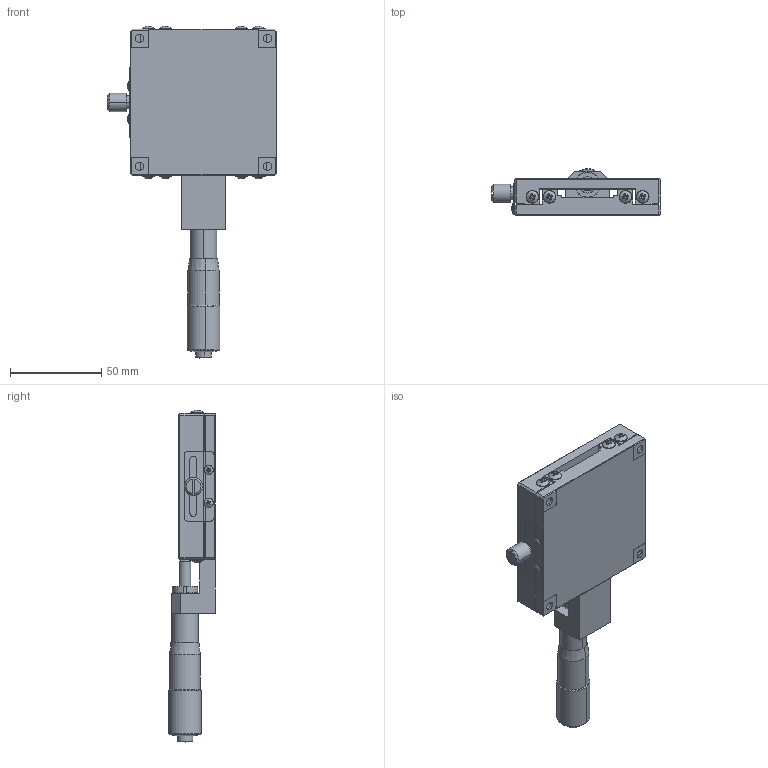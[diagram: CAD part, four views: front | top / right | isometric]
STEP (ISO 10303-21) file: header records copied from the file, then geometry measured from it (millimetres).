
FILE_DESCRIPTION (( 'STEP AP203' ), '1' );
FILE_NAME ('LX80-C.STEP', '2013-12-21T05:02:20', ( 'pengyu' ), ( '' ), 'SwSTEP 2.0', 'SolidWorks 2011', '' );
FILE_SCHEMA (( 'CONFIG_CONTROL_DESIGN' ));
Length unit declared in the file: millimetre
Products named in the file (4): LX80-C; MT25-4-1; L80C-2; L80C-1
Assembly tree (3 placements, depth 2):
  LX80-C
    MT25-4-1
    L80C-2
    L80C-1
Bounding box: 92.6 x 25.7 x 181.66 mm (x, y, z)
Volume: 131346.3 mm3; surface area: 50585.7 mm2
Topology: 3 solids, 11 shells, 587 faces, 1502 edges, 934 vertices
Faces by surface type: plane 331, cylinder 120, cone 100, bspline 36
Entity records: 19020 total; most frequent: CARTESIAN_POINT 4639, ORIENTED_EDGE 2924, DIRECTION 2908, EDGE_CURVE 1462, AXIS2_PLACEMENT_3D 1089, VERTEX_POINT 934, VECTOR 730, LINE 730
